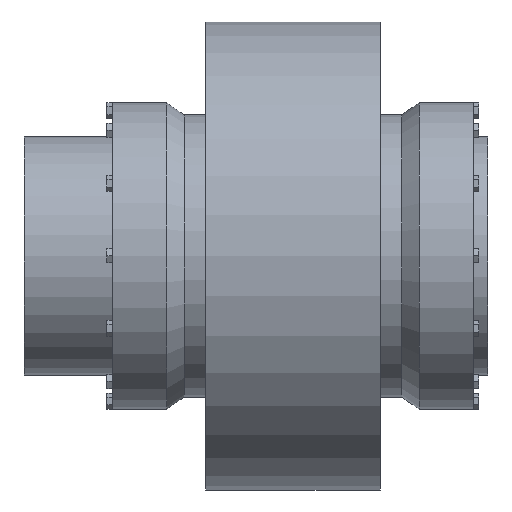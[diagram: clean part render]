
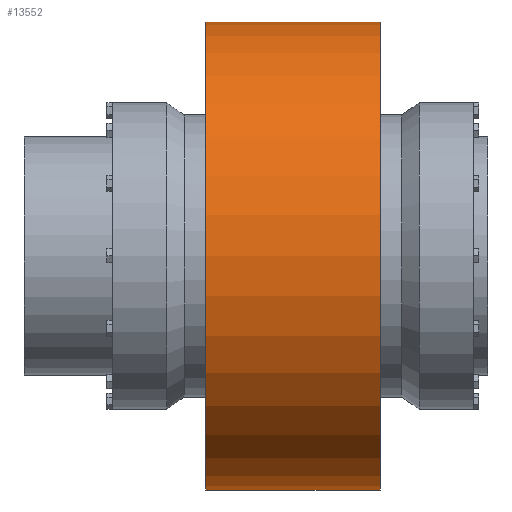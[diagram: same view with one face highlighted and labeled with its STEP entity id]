
A CAD part, top view. The second image highlights one B-rep face of the part: STEP entity #13552.
In plain terms, the highlighted cylindrical face has radius 355 mm (diameter 710 mm), a partial arc.
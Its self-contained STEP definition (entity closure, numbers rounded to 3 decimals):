
#13304=CARTESIAN_POINT('',(132.5,0.,0.));
#13305=DIRECTION('',(1.,0.,0.));
#13306=DIRECTION('',(0.,1.,0.));
#13307=AXIS2_PLACEMENT_3D('',#13304,#13305,#13306);
#13309=DIRECTION('',(-1.,0.,0.));
#13310=VECTOR('',#13309,265.);
#13311=CARTESIAN_POINT('',(132.5,355.,0.));
#13312=LINE('',#13311,#13310);
#13313=DIRECTION('',(-1.,0.,0.));
#13314=VECTOR('',#13313,265.);
#13315=CARTESIAN_POINT('',(132.5,-355.,0.));
#13316=LINE('',#13315,#13314);
#13327=CARTESIAN_POINT('',(-132.5,0.,0.));
#13328=DIRECTION('',(1.,0.,0.));
#13329=DIRECTION('',(0.,1.,0.));
#13330=AXIS2_PLACEMENT_3D('',#13327,#13328,#13329);
#13384=CARTESIAN_POINT('',(132.5,355.,0.));
#13385=CARTESIAN_POINT('',(-132.5,355.,0.));
#13386=VERTEX_POINT('',#13384);
#13387=VERTEX_POINT('',#13385);
#13392=CARTESIAN_POINT('',(132.5,-355.,0.));
#13393=CARTESIAN_POINT('',(-132.5,-355.,0.));
#13394=VERTEX_POINT('',#13392);
#13395=VERTEX_POINT('',#13393);
#13538=CARTESIAN_POINT('',(-145.75,0.,0.));
#13539=DIRECTION('',(1.,0.,0.));
#13540=DIRECTION('',(0.,-1.,0.));
#13541=AXIS2_PLACEMENT_3D('',#13538,#13539,#13540);
#13542=CYLINDRICAL_SURFACE('',#13541,355.);
#13544=ORIENTED_EDGE('',*,*,#13543,.F.);
#13545=ORIENTED_EDGE('',*,*,#13527,.T.);
#13547=ORIENTED_EDGE('',*,*,#13546,.T.);
#13549=ORIENTED_EDGE('',*,*,#13548,.F.);
#13550=EDGE_LOOP('',(#13544,#13545,#13547,#13549));
#13551=FACE_OUTER_BOUND('',#13550,.F.);
#13552=ADVANCED_FACE('',(#13551),#13542,.T.);
#13308=CIRCLE('',#13307,355.);
#13331=CIRCLE('',#13330,355.);
#13527=EDGE_CURVE('',#13386,#13394,#13308,.T.);
#13543=EDGE_CURVE('',#13386,#13387,#13312,.T.);
#13546=EDGE_CURVE('',#13394,#13395,#13316,.T.);
#13548=EDGE_CURVE('',#13387,#13395,#13331,.T.);
